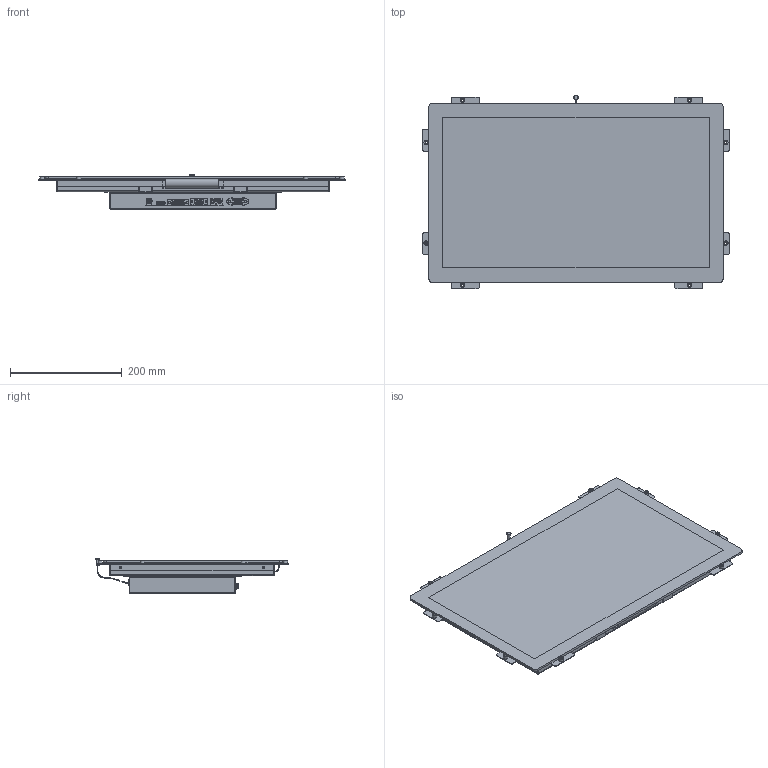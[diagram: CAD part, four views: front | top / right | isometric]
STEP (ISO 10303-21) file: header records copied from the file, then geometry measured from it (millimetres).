
FILE_DESCRIPTION (( 'STEP AP203' ), '1' );
FILE_NAME ('Z215-OF-MON Assembly.STEP', '2025-11-28T10:35:41', ( '' ), ( '' ), 'SwSTEP 2.0', 'SolidWorks 2025', '' );
FILE_SCHEMA (( 'CONFIG_CONTROL_DESIGN' ));
Length unit declared in the file: millimetre
Products named in the file (24): VGA D-Sub right-angle; AD-kit 15-24''''; USB panelmount_Défaut; OSD-sticker; Essentra 465907; Led driver 24; Z215-OF-MON Assembly; Led driver 21,5; MONB215-00 Assembly; SO-3,5M3-6-ZI Inpersafstandsteun; sn sticker^TFT-ITD-00 Backcover assembly; MPZ-215-10 Mounting plate; TFT-ITD-00 Backcover assembly_Monitor componenten; ITD-IO Input sticker; ITD21KITT5HB01 Display + sensor; BC-ITD-10 Backcover; ITD-Lichtsensor; HDMI_soldered; Afstandbus 4,2x8x5; Led driver 15-19; DVI-I_默认
Assembly tree (59 placements, depth 4):
  Z215-OF-MON Assembly
    MONB215-00 Assembly
      MPZ-215-10 Mounting plate
        MPZ-215-10 Mounting plate
        SO-3,5M3-6-ZI Inpersafstandsteun  x12
      ITD21KITT5HB01 Display + sensor
    TFT-ITD-00 Backcover assembly_Monitor componenten
      BC-ITD-10 Backcover
        BC-ITD-10 Backcover
        SO-3,5M3-6-ZI Inpersafstandsteun  x18
      AD-kit 15-24''''
        AD-kit 15-24''''
        DVI-I_默认
        HDMI_soldered
        VGA D-Sub right-angle
      USB panelmount_Défaut
      sn sticker^TFT-ITD-00 Backcover assembly
      Led driver 15-19
      Led driver 21,5
      Led driver 24
      ITD-IO Input sticker
      OSD-sticker
    ITD-Lichtsensor
    Essentra 465907
    Afstandbus 4,2x8x5  x8
Bounding box: 547.5 x 345.25 x 62.35 mm (x, y, z)
Volume: 302250.8 mm3; surface area: 959673.1 mm2
Topology: 55 solids, 65 shells, 3988 faces, 11010 edges, 7309 vertices
Faces by surface type: plane 2864, cylinder 716, bspline 338, cone 46, torus 20, sphere 4
Full cylindrical faces by diameter (mm): 0.65 x15, 0.9 x15, 1 x1, 1.5 x1, 1.68 x2, 2.5 x30, 2.9 x2, 3 x4, 3.16 x2, 3.33 x2, 3.5 x29, 3.73 x2, 3.76 x2, 4 x4, 4.2 x8, 4.5 x6, 4.69 x2, 5 x8, 5.4 x30, 5.49 x30, 5.5 x4, 6 x2, 6.5 x2, 8 x16, 8.5 x1, 10 x1
Entity records: 136031 total; most frequent: CARTESIAN_POINT 40329, ORIENTED_EDGE 19448, DIRECTION 17272, EDGE_CURVE 10046, VECTOR 7866, LINE 7866, VERTEX_POINT 6782, AXIS2_PLACEMENT_3D 4703
